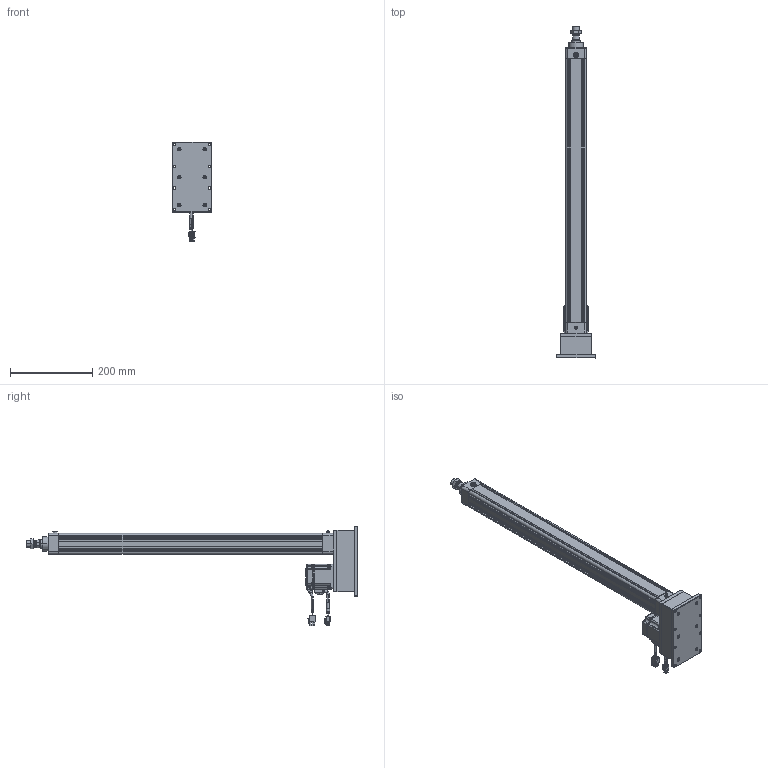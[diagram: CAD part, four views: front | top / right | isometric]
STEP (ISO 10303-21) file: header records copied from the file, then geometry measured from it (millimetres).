
FILE_DESCRIPTION((''),'2;1');
FILE_NAME('ASM0001_ASM','2020-04-18T',('ASUS20200'),(''),'CREO PARAMETRIC BY PTC INC, 2014190','CREO PARAMETRIC BY PTC INC, 2014190','');
FILE_SCHEMA(('CONFIG_CONTROL_DESIGN'));
Products named in the file (29): HE40-D-P-001-X1; HE40-D-P-002-X1; HE40-D-P-003-X1; 6200ZZ; SLM-01; YZ-M6X1; JDB202820; HE40-P-010-X1-200W; _MHMF022L1A2; _CABLE_MOTOR_BOTTOM_03; _CABLE_MOTOR_TOP_03; _MOTOR_CONNECTOR_2; _CABLE_BRAKE_BOTTOM_03; _CABLE_BRAKE_TOP_03; _MHMF_CONNECTOR_9_PIN_A6; MHMF022L1A2M2_1_ASM; MHMF022L1A2M2_ASM; JX5X5X20; TD-5; M5X20; LM-M6X1; HE40-P-012-X2; HE40-P-014-X1; M4X65; HE40-D-P-005-X1; HE40-D-P-004-X1; HE40-D-P-008-X1; LGLM-M6-22; ASM0001_ASM
Assembly tree (45 placements, depth 4):
  ASM0001_ASM
    HE40-D-P-001-X1
    HE40-D-P-002-X1
    HE40-D-P-003-X1
    6200ZZ
    SLM-01
    YZ-M6X1
    JDB202820
    HE40-P-010-X1-200W
    MHMF022L1A2M2_ASM
      MHMF022L1A2M2_1_ASM
        _MHMF022L1A2
        _CABLE_MOTOR_BOTTOM_03
        _CABLE_MOTOR_TOP_03
        _MOTOR_CONNECTOR_2
        _CABLE_BRAKE_BOTTOM_03
        _CABLE_BRAKE_TOP_03
        _MHMF_CONNECTOR_9_PIN_A6
    JX5X5X20
    TD-5  x4
    M5X20  x4
    LM-M6X1  x4
    HE40-P-012-X2
    HE40-P-014-X1
    M4X65  x6
    HE40-D-P-005-X1
    HE40-D-P-004-X1
    HE40-D-P-008-X1
    LGLM-M6-22  x4
Bounding box: 95 x 807.5 x 242.2 mm (x, y, z)
Volume: 1380513.8 mm3; surface area: 528545.6 mm2
Topology: 43 solids, 69 shells, 2771 faces, 6631 edges, 4089 vertices
Faces by surface type: plane 1162, cylinder 773, cone 656, torus 142, sphere 34, bspline 4
Entity records: 72138 total; most frequent: CARTESIAN_POINT 13751, DIRECTION 12748, ORIENTED_EDGE 11514, EDGE_CURVE 5803, AXIS2_PLACEMENT_3D 4734, VERTEX_POINT 3608, VECTOR 3280, LINE 3280
